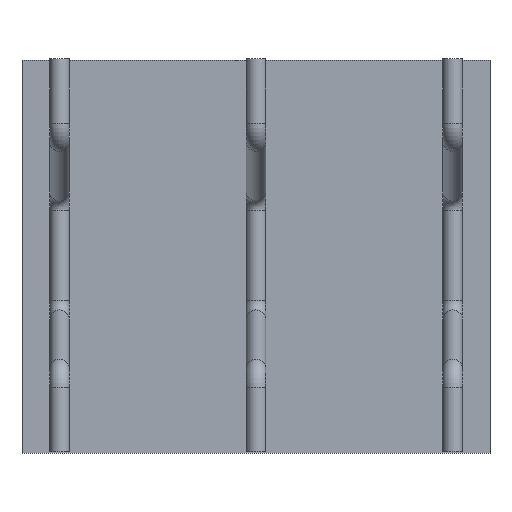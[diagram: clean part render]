
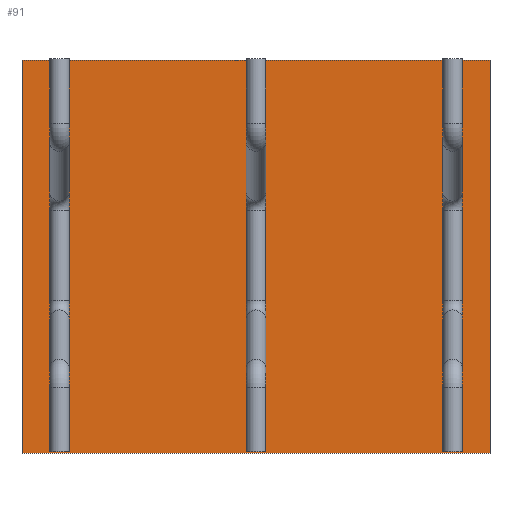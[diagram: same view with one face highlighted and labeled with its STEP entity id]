
A CAD part, top view. The second image highlights one B-rep face of the part: STEP entity #91.
In plain terms, the highlighted planar face has unit normal (0, 0, 1).
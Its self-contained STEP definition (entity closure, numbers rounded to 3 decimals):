
#52=CARTESIAN_POINT('Axis2P3D Location',(0.,0.,0.)) ;
#57=CARTESIAN_POINT('Line Origine',(0.,500.,0.)) ;
#61=CARTESIAN_POINT('Vertex',(595.,500.,0.)) ;
#63=CARTESIAN_POINT('Vertex',(-595.,500.,0.)) ;
#66=CARTESIAN_POINT('Line Origine',(-595.,0.,0.)) ;
#70=CARTESIAN_POINT('Vertex',(-595.,-500.,0.)) ;
#73=CARTESIAN_POINT('Line Origine',(0.,-500.,0.)) ;
#77=CARTESIAN_POINT('Vertex',(595.,-500.,0.)) ;
#80=CARTESIAN_POINT('Line Origine',(595.,0.,0.)) ;
#53=DIRECTION('Axis2P3D Direction',(0.,0.,1.)) ;
#54=DIRECTION('Axis2P3D XDirection',(1.,0.,0.)) ;
#58=DIRECTION('Vector Direction',(1.,0.,0.)) ;
#67=DIRECTION('Vector Direction',(0.,1.,0.)) ;
#74=DIRECTION('Vector Direction',(-1.,0.,0.)) ;
#81=DIRECTION('Vector Direction',(0.,-1.,0.)) ;
#55=AXIS2_PLACEMENT_3D('Plane Axis2P3D',#52,#53,#54) ;
#86=ORIENTED_EDGE('',*,*,#65,.T.) ;
#87=ORIENTED_EDGE('',*,*,#72,.T.) ;
#88=ORIENTED_EDGE('',*,*,#79,.T.) ;
#89=ORIENTED_EDGE('',*,*,#84,.T.) ;
#59=VECTOR('Line Direction',#58,1.) ;
#68=VECTOR('Line Direction',#67,1.) ;
#75=VECTOR('Line Direction',#74,1.) ;
#82=VECTOR('Line Direction',#81,1.) ;
#91=ADVANCED_FACE('Fill.1',(#90),#56,.T.) ;
#65=EDGE_CURVE('',#62,#64,#60,.F.) ;
#72=EDGE_CURVE('',#64,#71,#69,.F.) ;
#79=EDGE_CURVE('',#71,#78,#76,.F.) ;
#84=EDGE_CURVE('',#78,#62,#83,.F.) ;
#85=EDGE_LOOP('',(#86,#87,#88,#89)) ;
#90=FACE_OUTER_BOUND('',#85,.T.) ;
#60=LINE('Line',#57,#59) ;
#69=LINE('Line',#66,#68) ;
#76=LINE('Line',#73,#75) ;
#83=LINE('Line',#80,#82) ;
#56=PLANE('',#55) ;
#62=VERTEX_POINT('',#61) ;
#64=VERTEX_POINT('',#63) ;
#71=VERTEX_POINT('',#70) ;
#78=VERTEX_POINT('',#77) ;
